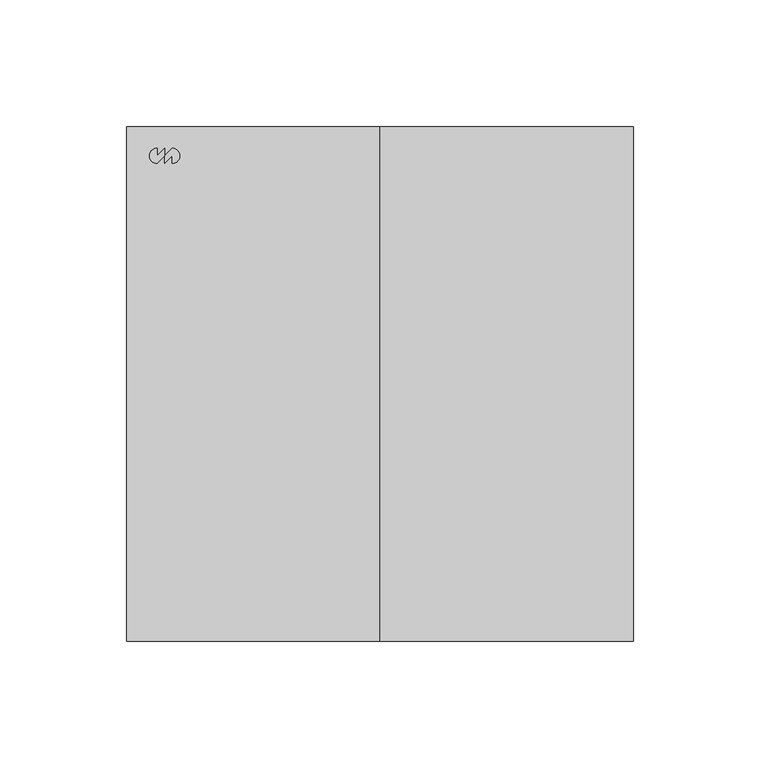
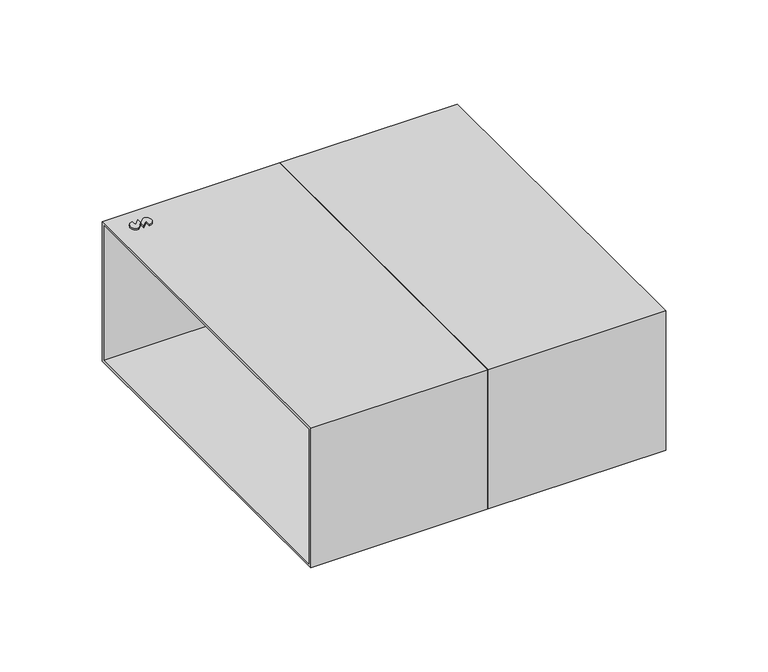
"""IFC4 building model written with IfcOpenShell, lengths in millimetres: duct fitting geometry, NLRS_57_DUF_UN_instortkanaal-manchet-voor-luchtkanaal_LT_velu : Manchet 200."""

from ifc_helpers import new_model, si_unit, point, frame, frame_2d, origin, place, context, project, spatial, polyline, circle_curve, trimmed, segment, composite_curve, outline, extrude, source, transform, mapped, element, save


def duct_fitting_8a1c439f(model_context):
    return source(origin(), model_context, "Body", "SweptSolid", [
        extrude(outline(composite_curve([segment(polyline([(-82.0, 87.0), (-82.0, 90.0), (-85.0, 87.0), (-85.0, 90.0), (-82.0, 93.0)]), True, "CONTINUOUS"), segment(trimmed(circle_curve(frame_2d((-82.0, 90.0)), 3.0), [point((-82.0, 93.0))], [point((-82.0, 87.0))], False, "CARTESIAN"), True, "CONTINUOUS")], self_intersect=False)), frame((0.0, 0.0, -42.5), z_axis=(0.0, 0.0, 1.0), x_axis=(1.0, 0.0, 0.0)), (0.0, 0.0, 1.0), 1.0),
        extrude(outline(composite_curve([segment(polyline([(-88.0, 93.0), (-88.0, 90.0), (-85.0, 93.0), (-85.0, 90.0), (-88.0, 87.0)]), True, "CONTINUOUS"), segment(trimmed(circle_curve(frame_2d((-88.0, 90.0)), 3.0), [point((-88.0, 87.0))], [point((-88.0, 93.0))], False, "CARTESIAN"), True, "CONTINUOUS")], self_intersect=False)), frame((0.0, 0.0, -42.5), z_axis=(0.0, 0.0, 1.0), x_axis=(1.0, 0.0, 0.0)), (0.0, 0.0, 1.0), 1.0),
        extrude(outline(composite_curve([segment(polyline([(-88.0, 93.0), (-88.0, 90.0), (-85.0, 93.0), (-85.0, 90.0), (-88.0, 87.0)]), True, "CONTINUOUS"), segment(trimmed(circle_curve(frame_2d((-88.0, 90.0)), 3.0), [point((-88.0, 87.0))], [point((-88.0, 93.0))], False, "CARTESIAN"), True, "CONTINUOUS")], self_intersect=False)), frame((0.0, 0.0, 41.5), z_axis=(0.0, 0.0, 1.0), x_axis=(1.0, 0.0, 0.0)), (0.0, 0.0, 1.0), 1.0),
        extrude(outline(composite_curve([segment(polyline([(-82.0, 87.0), (-82.0, 90.0), (-85.0, 87.0), (-85.0, 90.0), (-82.0, 93.0)]), True, "CONTINUOUS"), segment(trimmed(circle_curve(frame_2d((-82.0, 90.0)), 3.0), [point((-82.0, 93.0))], [point((-82.0, 87.0))], False, "CARTESIAN"), True, "CONTINUOUS")], self_intersect=False)), frame((0.0, 0.0, 41.5), z_axis=(0.0, 0.0, 1.0), x_axis=(1.0, 0.0, 0.0)), (0.0, 0.0, 1.0), 1.0),
        extrude(outline(polyline([(101.5, -41.5), (-101.5, -41.5), (-101.5, 41.5), (101.5, 41.5), (101.5, -41.5)]), holes=[polyline([(100.0, 40.0), (-100.0, 40.0), (-100.0, -40.0), (100.0, -40.0), (100.0, 40.0)])]), frame((0.0, 0.0, 0.0), z_axis=(1.0, 0.0, 0.0), x_axis=(0.0, 1.0, 0.0)), (0.0, 0.0, 1.0), 100.0),
        extrude(outline(polyline([(-101.5, 41.5), (101.5, 41.5), (101.5, -41.5), (-101.5, -41.5), (-101.5, 41.5)]), holes=[polyline([(-100.0, -40.0), (100.0, -40.0), (100.0, 40.0), (-100.0, 40.0), (-100.0, -40.0)])]), frame((-100.0, 0.0, 0.0), z_axis=(1.0, 0.0, 0.0), x_axis=(0.0, 1.0, 0.0)), (0.0, 0.0, 1.0), 100.0),
    ])


if __name__ == "__main__":
    model = new_model("IFC4")
    model_context = context("Model", 3, world=origin())
    ifc_project = project(units=[si_unit("LENGTHUNIT", "METRE", prefix="MILLI")], contexts=[model_context])
    site = spatial("IfcSite", under=ifc_project)
    building = spatial("IfcBuilding", under=site)
    placement = place(None, origin())
    duct_fitting_shape = duct_fitting_8a1c439f(model_context)
    element("IfcDuctFitting", 1, ObjectType="NLRS_57_DUF_UN_instortkanaal-manchet-voor-luchtkanaal_LT_velu : Manchet 200", at=placement, inside=building, context=model_context, shape_type="MappedRepresentation", body=[
        mapped(duct_fitting_shape, transform((0.0, 0.0, 0.0), x_axis=(1.0, 0.0, 0.0), y_axis=(0.0, 1.0, 0.0), z_axis=(0.0, 0.0, 1.0))),
    ])
    save(model, "model.ifc")
